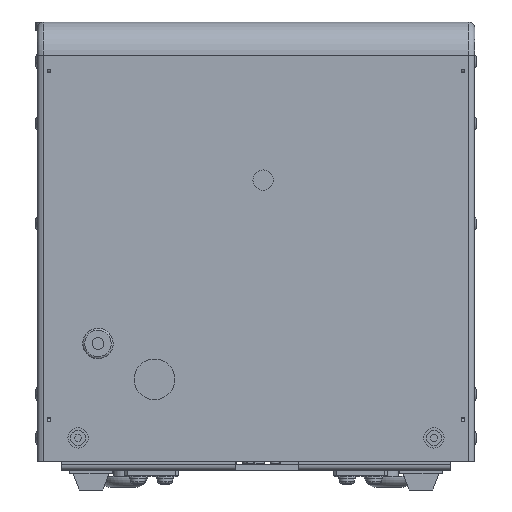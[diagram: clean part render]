
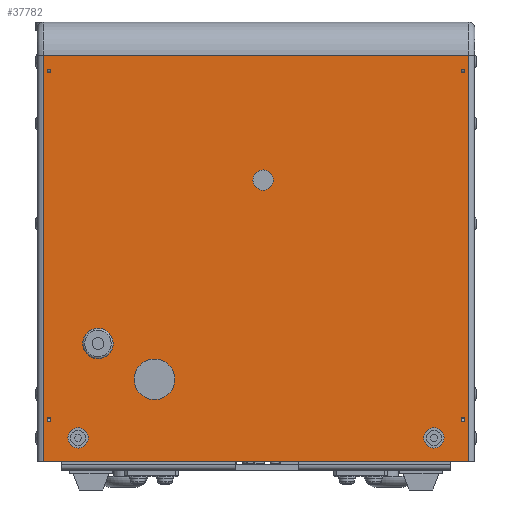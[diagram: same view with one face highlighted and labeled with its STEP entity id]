
A CAD part, left-side view. The second image highlights one B-rep face of the part: STEP entity #37782.
In plain terms, the highlighted planar face has unit normal (-1, 0, 0).
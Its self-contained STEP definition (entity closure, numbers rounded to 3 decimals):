
#839=FACE_BOUND('',#5625,.T.);
#840=FACE_BOUND('',#5626,.T.);
#841=FACE_BOUND('',#5627,.T.);
#842=FACE_BOUND('',#5628,.T.);
#843=FACE_BOUND('',#5629,.T.);
#844=FACE_BOUND('',#5630,.T.);
#845=FACE_BOUND('',#5631,.T.);
#846=FACE_BOUND('',#5632,.T.);
#847=FACE_BOUND('',#5633,.T.);
#1490=CIRCLE('',#40179,4.5);
#1494=CIRCLE('',#40191,6.);
#1496=CIRCLE('',#40194,3.);
#1498=CIRCLE('',#40197,3.);
#1500=CIRCLE('',#40200,3.);
#3324=FACE_OUTER_BOUND('',#5624,.T.);
#5624=EDGE_LOOP('',(#27179,#27180,#27181,#27182));
#5625=EDGE_LOOP('',(#27183,#27184,#27185,#27186));
#5626=EDGE_LOOP('',(#27187,#27188,#27189,#27190));
#5627=EDGE_LOOP('',(#27191));
#5628=EDGE_LOOP('',(#27192,#27193,#27194,#27195));
#5629=EDGE_LOOP('',(#27196));
#5630=EDGE_LOOP('',(#27197));
#5631=EDGE_LOOP('',(#27198));
#5632=EDGE_LOOP('',(#27199));
#5633=EDGE_LOOP('',(#27200,#27201,#27202,#27203));
#8382=LINE('',#56734,#12165);
#8418=LINE('',#56823,#12201);
#8435=LINE('',#56863,#12218);
#8558=LINE('',#57233,#12341);
#8563=LINE('',#57244,#12346);
#8571=LINE('',#57320,#12354);
#8598=LINE('',#57421,#12381);
#8616=LINE('',#57503,#12399);
#8618=LINE('',#57506,#12401);
#8620=LINE('',#57512,#12403);
#8623=LINE('',#57517,#12406);
#8626=LINE('',#57523,#12409);
#8628=LINE('',#57526,#12411);
#8632=LINE('',#57533,#12415);
#8633=LINE('',#57536,#12416);
#8637=LINE('',#57542,#12420);
#8646=LINE('',#57555,#12429);
#8880=LINE('',#58291,#12663);
#8890=LINE('',#58363,#12673);
#8891=LINE('',#58364,#12674);
#12165=VECTOR('',#44812,120.);
#12201=VECTOR('',#44884,1.);
#12218=VECTOR('',#44919,1.);
#12341=VECTOR('',#45280,120.);
#12346=VECTOR('',#45289,120.);
#12354=VECTOR('',#45385,120.);
#12381=VECTOR('',#45510,1.);
#12399=VECTOR('',#45608,1.);
#12401=VECTOR('',#45612,1.);
#12403=VECTOR('',#45616,1.);
#12406=VECTOR('',#45621,1.);
#12409=VECTOR('',#45626,1.);
#12411=VECTOR('',#45630,1.);
#12415=VECTOR('',#45636,1.);
#12416=VECTOR('',#45639,1.);
#12420=VECTOR('',#45645,1.);
#12429=VECTOR('',#45662,120.);
#12663=VECTOR('',#46428,120.);
#12673=VECTOR('',#46510,1.);
#12674=VECTOR('',#46511,1.);
#15977=VERTEX_POINT('',#56731);
#15978=VERTEX_POINT('',#56733);
#16013=VERTEX_POINT('',#56821);
#16026=VERTEX_POINT('',#56860);
#16027=VERTEX_POINT('',#56862);
#16142=VERTEX_POINT('',#57230);
#16143=VERTEX_POINT('',#57232);
#16146=VERTEX_POINT('',#57241);
#16147=VERTEX_POINT('',#57243);
#16169=VERTEX_POINT('',#57316);
#16171=VERTEX_POINT('',#57319);
#16196=VERTEX_POINT('',#57420);
#16207=VERTEX_POINT('',#57453);
#16211=VERTEX_POINT('',#57475);
#16213=VERTEX_POINT('',#57481);
#16215=VERTEX_POINT('',#57487);
#16217=VERTEX_POINT('',#57493);
#16220=VERTEX_POINT('',#57500);
#16221=VERTEX_POINT('',#57508);
#16223=VERTEX_POINT('',#57511);
#16225=VERTEX_POINT('',#57520);
#16228=VERTEX_POINT('',#57530);
#16229=VERTEX_POINT('',#57535);
#16463=VERTEX_POINT('',#58284);
#16466=VERTEX_POINT('',#58289);
#19799=EDGE_CURVE('',#15977,#15978,#8382,.T.);
#19846=EDGE_CURVE('',#15977,#16013,#8418,.T.);
#19866=EDGE_CURVE('',#16027,#16026,#8435,.T.);
#20047=EDGE_CURVE('',#16143,#16142,#8558,.T.);
#20053=EDGE_CURVE('',#16147,#16146,#8563,.T.);
#20084=EDGE_CURVE('',#16171,#16169,#8571,.T.);
#20136=EDGE_CURVE('',#16196,#16147,#8598,.T.);
#20152=EDGE_CURVE('',#16207,#16207,#1490,.T.);
#20162=EDGE_CURVE('',#16211,#16211,#1494,.T.);
#20165=EDGE_CURVE('',#16213,#16213,#1496,.T.);
#20168=EDGE_CURVE('',#16215,#16215,#1498,.T.);
#20171=EDGE_CURVE('',#16217,#16217,#1500,.T.);
#20176=EDGE_CURVE('',#16220,#15978,#8616,.T.);
#20178=EDGE_CURVE('',#16013,#16220,#8618,.T.);
#20180=EDGE_CURVE('',#16223,#16221,#8620,.T.);
#20183=EDGE_CURVE('',#16221,#16027,#8623,.T.);
#20186=EDGE_CURVE('',#16146,#16225,#8626,.T.);
#20188=EDGE_CURVE('',#16225,#16196,#8628,.T.);
#20192=EDGE_CURVE('',#16228,#16143,#8632,.T.);
#20193=EDGE_CURVE('',#16229,#16228,#8633,.T.);
#20197=EDGE_CURVE('',#16142,#16229,#8637,.T.);
#20206=EDGE_CURVE('',#16223,#16026,#8646,.T.);
#20564=EDGE_CURVE('',#16466,#16463,#8880,.T.);
#20600=EDGE_CURVE('',#16171,#16466,#8890,.T.);
#20601=EDGE_CURVE('',#16169,#16463,#8891,.T.);
#27179=ORIENTED_EDGE('',*,*,#20600,.F.);
#27180=ORIENTED_EDGE('',*,*,#20084,.T.);
#27181=ORIENTED_EDGE('',*,*,#20601,.T.);
#27182=ORIENTED_EDGE('',*,*,#20564,.F.);
#27183=ORIENTED_EDGE('',*,*,#20197,.T.);
#27184=ORIENTED_EDGE('',*,*,#20193,.T.);
#27185=ORIENTED_EDGE('',*,*,#20192,.T.);
#27186=ORIENTED_EDGE('',*,*,#20047,.T.);
#27187=ORIENTED_EDGE('',*,*,#20053,.T.);
#27188=ORIENTED_EDGE('',*,*,#20186,.T.);
#27189=ORIENTED_EDGE('',*,*,#20188,.T.);
#27190=ORIENTED_EDGE('',*,*,#20136,.T.);
#27191=ORIENTED_EDGE('',*,*,#20152,.T.);
#27192=ORIENTED_EDGE('',*,*,#20180,.T.);
#27193=ORIENTED_EDGE('',*,*,#20183,.T.);
#27194=ORIENTED_EDGE('',*,*,#19866,.T.);
#27195=ORIENTED_EDGE('',*,*,#20206,.F.);
#27196=ORIENTED_EDGE('',*,*,#20162,.T.);
#27197=ORIENTED_EDGE('',*,*,#20165,.T.);
#27198=ORIENTED_EDGE('',*,*,#20168,.T.);
#27199=ORIENTED_EDGE('',*,*,#20171,.T.);
#27200=ORIENTED_EDGE('',*,*,#19846,.T.);
#27201=ORIENTED_EDGE('',*,*,#20178,.T.);
#27202=ORIENTED_EDGE('',*,*,#20176,.T.);
#27203=ORIENTED_EDGE('',*,*,#19799,.F.);
#36063=PLANE('',#40516);
#37782=ADVANCED_FACE('',(#3324,#839,#840,#841,#842,#843,#844,#845,#846,
#847),#36063,.T.);
#40179=AXIS2_PLACEMENT_3D('',#57454,#45548,#45549);
#40191=AXIS2_PLACEMENT_3D('',#57476,#45578,#45579);
#40194=AXIS2_PLACEMENT_3D('',#57482,#45585,#45586);
#40197=AXIS2_PLACEMENT_3D('',#57488,#45592,#45593);
#40200=AXIS2_PLACEMENT_3D('',#57494,#45599,#45600);
#40516=AXIS2_PLACEMENT_3D('',#58362,#46508,#46509);
#44812=DIRECTION('',(0.,0.,1.));
#44884=DIRECTION('',(0.,1.,0.));
#44919=DIRECTION('',(0.,-1.,0.));
#45280=DIRECTION('',(0.,0.,1.));
#45289=DIRECTION('',(0.,0.,1.));
#45385=DIRECTION('',(0.,0.,-1.));
#45510=DIRECTION('',(0.,1.,0.));
#45548=DIRECTION('center_axis',(1.,0.,0.));
#45549=DIRECTION('ref_axis',(0.,0.546,0.838));
#45578=DIRECTION('center_axis',(1.,0.,0.));
#45579=DIRECTION('ref_axis',(0.,1.,0.));
#45585=DIRECTION('center_axis',(1.,0.,0.));
#45586=DIRECTION('ref_axis',(0.,1.,0.));
#45592=DIRECTION('center_axis',(1.,0.,0.));
#45593=DIRECTION('ref_axis',(0.,1.,0.));
#45599=DIRECTION('center_axis',(1.,0.,0.));
#45600=DIRECTION('ref_axis',(0.,1.,0.));
#45608=DIRECTION('',(0.,-1.,0.));
#45612=DIRECTION('',(0.,0.,1.));
#45616=DIRECTION('',(0.,1.,0.));
#45621=DIRECTION('',(0.,0.,1.));
#45626=DIRECTION('',(0.,-1.,0.));
#45630=DIRECTION('',(0.,0.,-1.));
#45636=DIRECTION('',(0.,1.,0.));
#45639=DIRECTION('',(0.,0.,-1.));
#45645=DIRECTION('',(0.,-1.,0.));
#45662=DIRECTION('',(0.,0.,1.));
#46428=DIRECTION('',(0.,0.,-1.));
#46508=DIRECTION('center_axis',(-1.,0.,0.));
#46509=DIRECTION('ref_axis',(0.,-1.,0.));
#46510=DIRECTION('',(0.,-1.,0.));
#46511=DIRECTION('',(0.,-1.,0.));
#56731=CARTESIAN_POINT('',(26.359,-40.371,240.184));
#56733=CARTESIAN_POINT('',(26.359,-40.371,241.184));
#56734=CARTESIAN_POINT('',(26.359,-40.371,125.184));
#56821=CARTESIAN_POINT('',(26.359,-39.371,240.184));
#56823=CARTESIAN_POINT('',(26.359,-40.371,240.184));
#56860=CARTESIAN_POINT('',(26.359,-40.371,138.184));
#56862=CARTESIAN_POINT('',(26.359,-39.371,138.184));
#56863=CARTESIAN_POINT('',(26.359,-39.371,138.184));
#57230=CARTESIAN_POINT('',(26.359,83.029,138.184));
#57232=CARTESIAN_POINT('',(26.359,83.029,137.184));
#57233=CARTESIAN_POINT('',(26.359,83.029,125.184));
#57241=CARTESIAN_POINT('',(26.359,83.029,241.184));
#57243=CARTESIAN_POINT('',(26.359,83.029,240.184));
#57244=CARTESIAN_POINT('',(26.359,83.029,125.184));
#57316=CARTESIAN_POINT('',(26.359,84.029,125.184));
#57319=CARTESIAN_POINT('',(26.359,84.029,245.184));
#57320=CARTESIAN_POINT('',(26.359,84.029,245.184));
#57420=CARTESIAN_POINT('',(26.359,82.029,240.184));
#57421=CARTESIAN_POINT('',(26.359,82.029,240.184));
#57453=CARTESIAN_POINT('',(26.359,65.572,156.414));
#57454=CARTESIAN_POINT('Origin',(26.359,68.029,160.184));
#57475=CARTESIAN_POINT('',(26.359,45.329,149.584));
#57476=CARTESIAN_POINT('Origin',(26.359,51.329,149.584));
#57481=CARTESIAN_POINT('',(26.359,16.229,208.484));
#57482=CARTESIAN_POINT('Origin',(26.359,19.229,208.484));
#57487=CARTESIAN_POINT('',(26.359,70.929,132.284));
#57488=CARTESIAN_POINT('Origin',(26.359,73.929,132.284));
#57493=CARTESIAN_POINT('',(26.359,-34.271,132.284));
#57494=CARTESIAN_POINT('Origin',(26.359,-31.271,132.284));
#57500=CARTESIAN_POINT('',(26.359,-39.371,241.184));
#57503=CARTESIAN_POINT('',(26.359,-39.371,241.184));
#57506=CARTESIAN_POINT('',(26.359,-39.371,240.184));
#57508=CARTESIAN_POINT('',(26.359,-39.371,137.184));
#57511=CARTESIAN_POINT('',(26.359,-40.371,137.184));
#57512=CARTESIAN_POINT('',(26.359,-40.371,137.184));
#57517=CARTESIAN_POINT('',(26.359,-39.371,137.184));
#57520=CARTESIAN_POINT('',(26.359,82.029,241.184));
#57523=CARTESIAN_POINT('',(26.359,83.029,241.184));
#57526=CARTESIAN_POINT('',(26.359,82.029,241.184));
#57530=CARTESIAN_POINT('',(26.359,82.029,137.184));
#57533=CARTESIAN_POINT('',(26.359,82.029,137.184));
#57535=CARTESIAN_POINT('',(26.359,82.029,138.184));
#57536=CARTESIAN_POINT('',(26.359,82.029,138.184));
#57542=CARTESIAN_POINT('',(26.359,83.029,138.184));
#57555=CARTESIAN_POINT('',(26.359,-40.371,125.184));
#58284=CARTESIAN_POINT('',(26.359,-41.371,125.184));
#58289=CARTESIAN_POINT('',(26.359,-41.371,245.184));
#58291=CARTESIAN_POINT('',(26.359,-41.371,245.184));
#58362=CARTESIAN_POINT('Origin',(26.359,-40.371,125.184));
#58363=CARTESIAN_POINT('',(26.359,-40.371,245.184));
#58364=CARTESIAN_POINT('',(26.359,-40.371,125.184));
